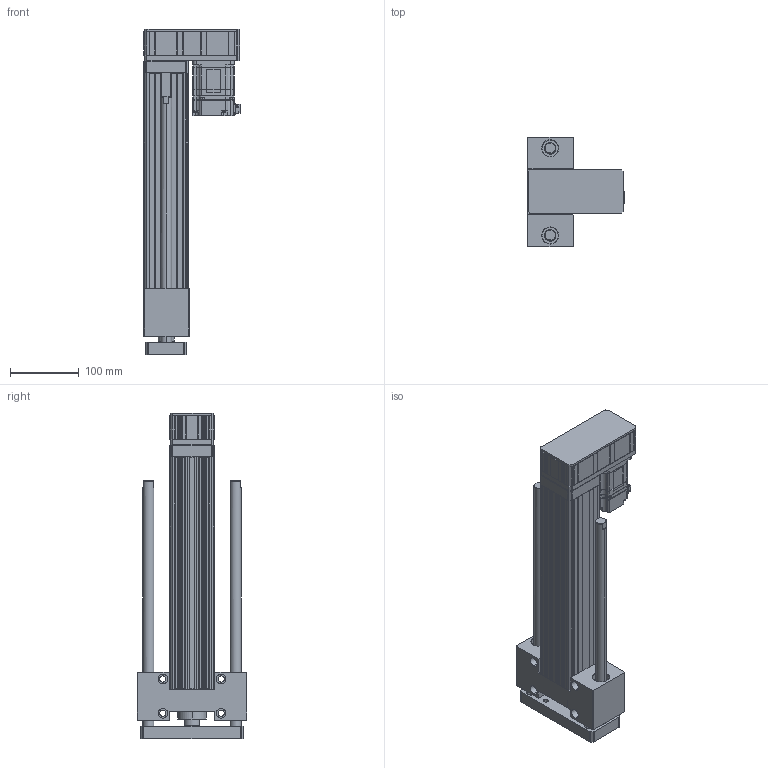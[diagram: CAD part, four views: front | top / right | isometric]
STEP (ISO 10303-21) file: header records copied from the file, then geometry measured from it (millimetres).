
FILE_DESCRIPTION (( 'STEP AP203' ), '1' );
FILE_NAME ('ANS065-HP250-05(10)-W20.STEP', '2019-03-01T05:48:15', ( 'user' ), ( '' ), 'SwSTEP 2.0', 'SolidWorks 2013', '' );
FILE_SCHEMA (( 'CONFIG_CONTROL_DESIGN' ));
Length unit declared in the file: millimetre
Products named in the file (4): ANS065 HP250 VER2; ANS065 ROD ST250 G; sgmjv_02a_a21; ANS065-HP250-05(10)-W20
Assembly tree (3 placements, depth 2):
  ANS065-HP250-05(10)-W20
    ANS065 HP250 VER2
    ANS065 ROD ST250 G
    sgmjv_02a_a21
Bounding box: 140.3 x 160 x 474.5 mm (x, y, z)
Volume: 2013360.2 mm3; surface area: 477531.3 mm2
Topology: 3 solids, 7 shells, 1458 faces, 3875 edges, 2502 vertices
Faces by surface type: plane 896, cylinder 452, cone 110
Entity records: 45387 total; most frequent: CARTESIAN_POINT 8127, ORIENTED_EDGE 7710, DIRECTION 7657, EDGE_CURVE 3855, LINE 2793, VECTOR 2793, VERTEX_POINT 2502, AXIS2_PLACEMENT_3D 2432
